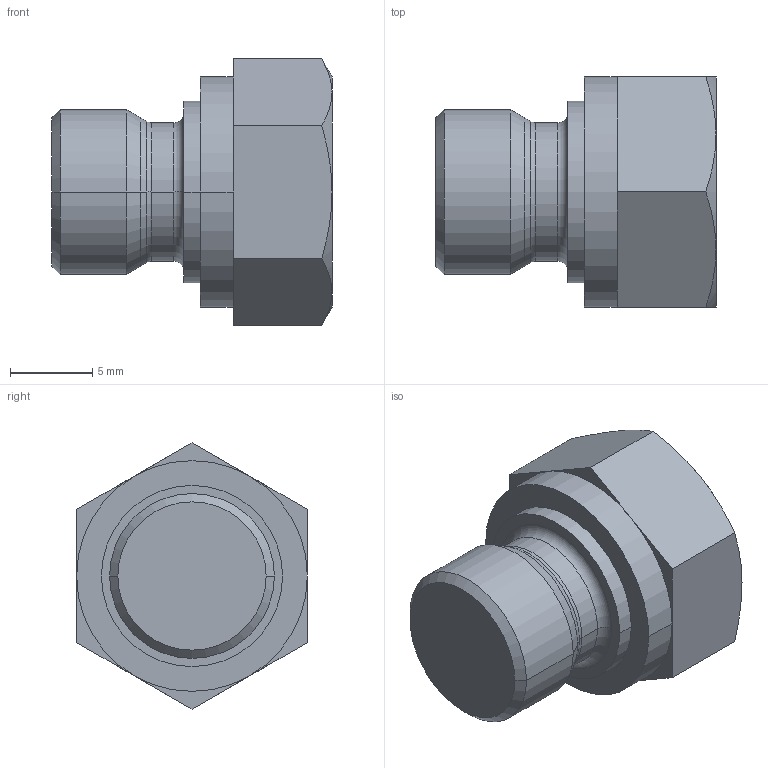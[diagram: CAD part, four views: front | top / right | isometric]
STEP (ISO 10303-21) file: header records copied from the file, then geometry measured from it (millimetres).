
FILE_DESCRIPTION((''),'2;1');
FILE_NAME('VERSCHLUSSSCHR_DIN7604_M10X1','2022-06-13T16:18:57',('H041970'),(''),'CREO PARAMETRIC BY PTC INC, 2021284','CREO PARAMETRIC BY PTC INC, 2021284','');
FILE_SCHEMA(('CONFIG_CONTROL_DESIGN'));
Length unit declared in the file: millimetre
Products named in the file (1): VERSCHLUSSSCHR_DIN7604_M10X1
Bounding box: 17 x 14 x 16.17 mm (x, y, z)
Volume: 1980 mm3; surface area: 1147.4 mm2
Topology: 1 solids, 2 shells, 40 faces, 87 edges, 54 vertices
Faces by surface type: plane 16, cylinder 10, cone 10, torus 4
Entity records: 1202 total; most frequent: CARTESIAN_POINT 284, DIRECTION 197, ORIENTED_EDGE 164, EDGE_CURVE 84, AXIS2_PLACEMENT_3D 81, VERTEX_POINT 48, EDGE_LOOP 42, FACE_OUTER_BOUND 40
